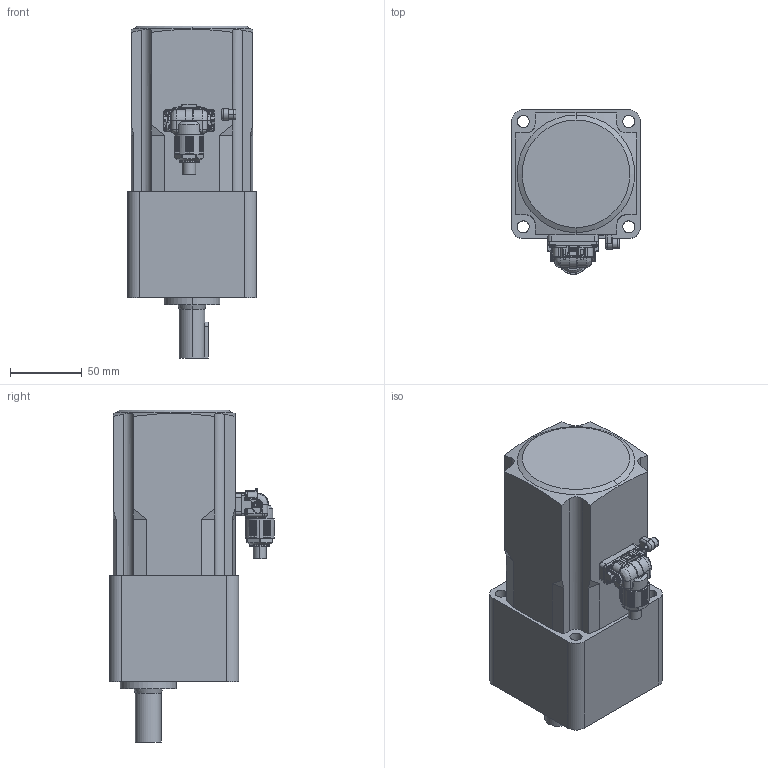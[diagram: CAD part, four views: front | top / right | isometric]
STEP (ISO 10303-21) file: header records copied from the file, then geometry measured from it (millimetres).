
FILE_DESCRIPTION (( 'STEP AP203' ), '1' );
FILE_NAME ('B1631_F.step', '2025-07-07T05:04:41', ( '' ), ( '' ), 'SwSTEP 2.0', 'SolidWorks 2023', '' );
FILE_SCHEMA (( 'CONFIG_CONTROL_DESIGN' ));
Length unit declared in the file: millimetre
Products named in the file (1): B1631_F
Bounding box: 90 x 115 x 231.5 mm (x, y, z)
Volume: 1348132.1 mm3; surface area: 94826.7 mm2
Topology: 2 solids, 6 shells, 1086 faces, 2835 edges, 1749 vertices
Faces by surface type: plane 458, cylinder 414, bspline 148, cone 42, torus 22, sphere 2
Entity records: 37053 total; most frequent: CARTESIAN_POINT 11907, ORIENTED_EDGE 5606, DIRECTION 4808, EDGE_CURVE 2803, VERTEX_POINT 1749, AXIS2_PLACEMENT_3D 1659, VECTOR 1490, LINE 1490
